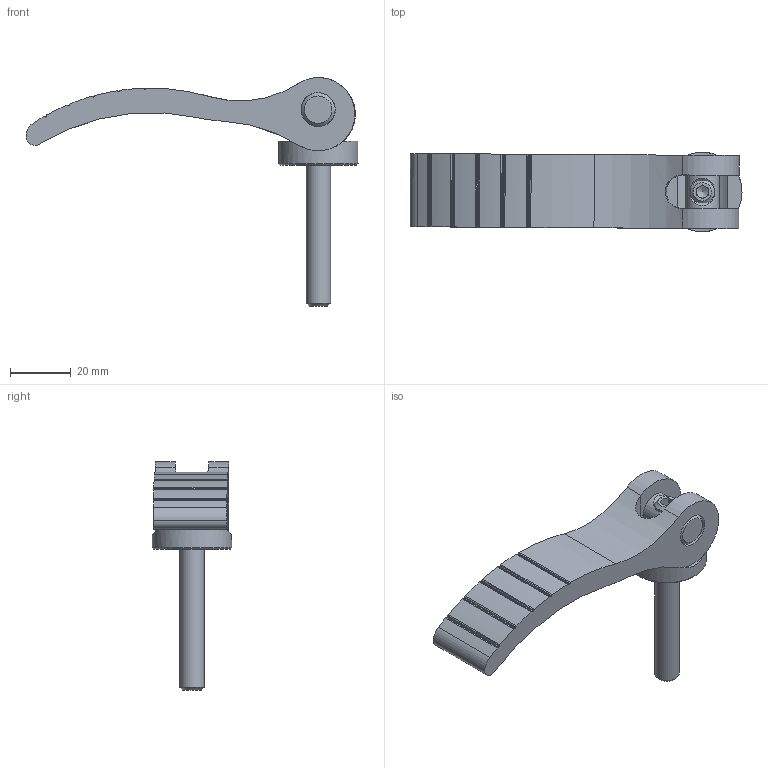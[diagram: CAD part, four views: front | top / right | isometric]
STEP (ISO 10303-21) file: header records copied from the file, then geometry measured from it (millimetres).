
FILE_DESCRIPTION(('STEP AP203'), '1');
FILE_NAME('À00360.111080825 _ Ýêñöåíòðèê 108 ìì', '', ('UNSPECIFIED'), ('UNSPECIFIED'), 'C3D Converter', 'C3D Toolkit', '');
FILE_SCHEMA(('CONFIG_CONTROL_DESIGN'));
Length unit declared in the file: millimetre
Products named in the file (5): А00360.108.03; А00360.108.02; А00360.108.01
Assembly tree (4 placements, depth 2):
  (unnamed)
    А00360.108.03
    А00360.108.02
    А00360.108.01
    (unnamed)
Bounding box: 108.87 x 26 x 74.97 mm (x, y, z)
Volume: 29546.5 mm3; surface area: 13189.4 mm2
Topology: 4 solids, 4 shells, 79 faces, 203 edges, 132 vertices
Faces by surface type: cylinder 38, plane 33, cone 6, bspline 2
Full cylindrical faces by diameter (mm): 6.647 x1, 8 x1, 10.5 x1, 11 x1, 11.2 x2, 26 x1
Entity records: 4439 total; most frequent: CARTESIAN_POINT 2270, DIRECTION 424, ORIENTED_EDGE 370, EDGE_CURVE 185, AXIS2_PLACEMENT_3D 168, VERTEX_POINT 129, EDGE_LOOP 102, LINE 88
